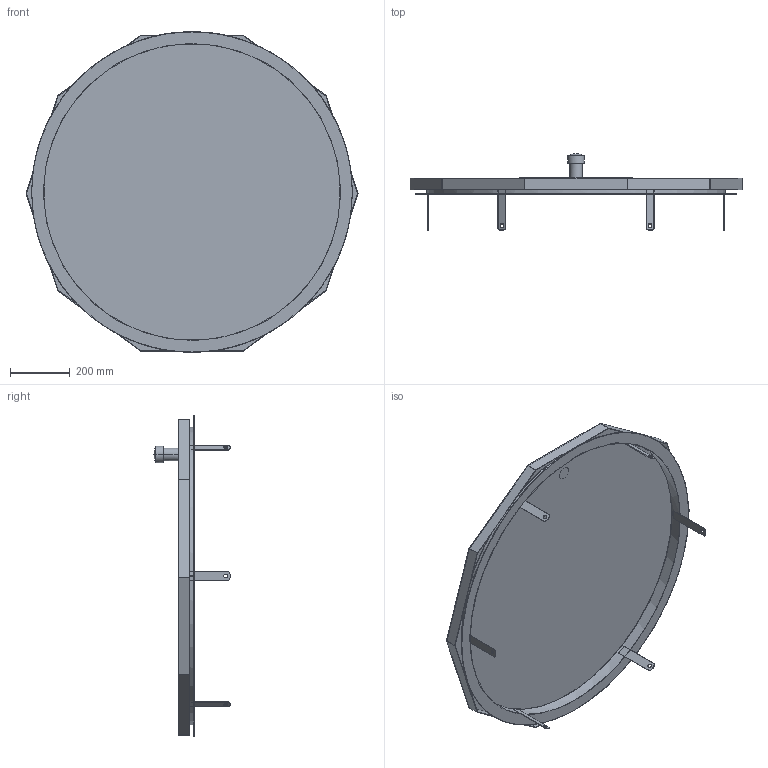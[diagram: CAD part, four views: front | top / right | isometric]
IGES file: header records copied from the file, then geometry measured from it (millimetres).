
Start section:  PTC IGES file: 017_000107.igs
Global section: file name: 017_000107.igs; native system: Creo Parametric by Parametric Technology Corporation; preprocessor: 2017170; author: set; organization: Unknown; date: 20180906.124021; units: millimetre
Bounding box: 1112.45 x 256 x 1074.36 mm (x, y, z)
Surface area: 2649174.4 mm2 (no closed solid volume)
Topology: 0 solids, 0 shells, 87 faces, 474 edges, 472 vertices
Faces by surface type: bspline 57, revolution 30
